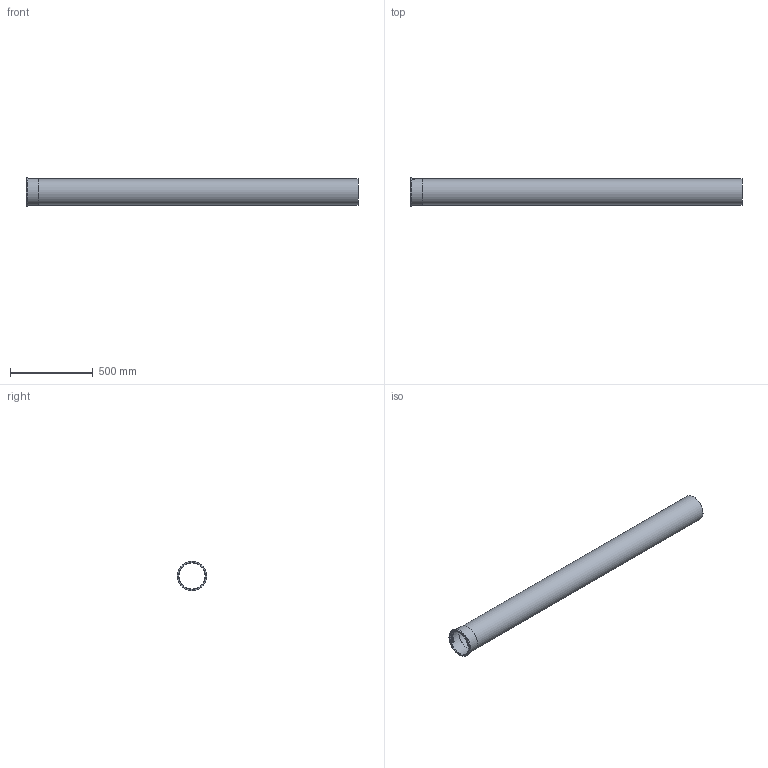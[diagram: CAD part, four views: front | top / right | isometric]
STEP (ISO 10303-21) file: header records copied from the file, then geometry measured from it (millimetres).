
FILE_DESCRIPTION((''),'2;1');
FILE_NAME('I:\WATTS\3D_CAD\3D_CAD_Models\Blucher_Drains\P_StraightPipe\WebsiteFiles\3D\STEP\P6-6.6-316.stp','2009-12-02T16:22:45',('menesek'),(''),'Autodesk Inventor 2010','Autodesk Inventor 2010','');
FILE_SCHEMA(('AUTOMOTIVE_DESIGN { 1 0 10303 214 1 1 1 1 }'));
Length unit declared in the file: inch
Products named in the file (1): P6-6.6-316
Bounding box: 2000 x 177.04 x 177.04 mm (x, y, z)
Volume: 1311925.8 mm3; surface area: 2002806.4 mm2
Topology: 1 solids, 1 shells, 109 faces, 285 edges, 190 vertices
Faces by surface type: plane 59, bspline 34, cylinder 16
Full cylindrical faces by diameter (mm): 157.226 x1, 159.766 x1, 160.782 x2, 177.038 x1
Entity records: 13936 total; most frequent: CARTESIAN_POINT 11558, ORIENTED_EDGE 548, DIRECTION 356, EDGE_CURVE 274, VERTEX_POINT 186, EDGE_LOOP 128, AXIS2_PLACEMENT_3D 120, VECTOR 116
